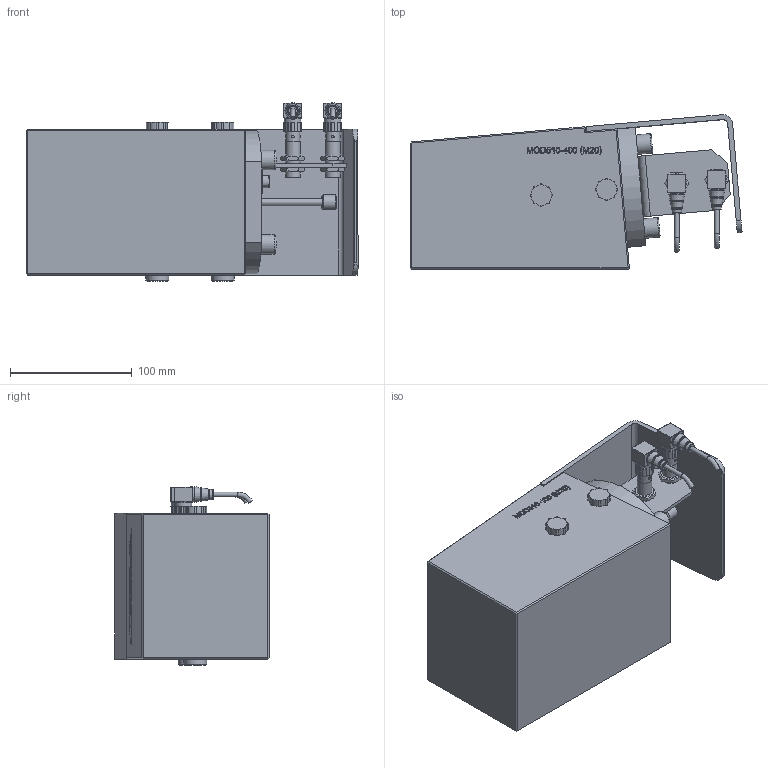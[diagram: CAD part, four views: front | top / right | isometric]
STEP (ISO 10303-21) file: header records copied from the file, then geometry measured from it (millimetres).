
FILE_DESCRIPTION((''),'2;1');
FILE_NAME('\\EASAD\users\jaccow\Desktop\MOD KM\MOD510-400 (M20).stp','2013-11-08T09:48:48',('jaccow'),(''),'Autodesk Inventor 2013','Autodesk Inventor 2013','');
FILE_SCHEMA(('AUTOMOTIVE_DESIGN { 1 0 10303 214 1 1 1 1 }'));
Length unit declared in the file: millimetre
Products named in the file (1): MOD510-400 (M20)
Bounding box: 273.24 x 127.08 x 147.06 mm (x, y, z)
Volume: 2656332.1 mm3; surface area: 183555.7 mm2
Topology: 1 solids, 1 shells, 1299 faces, 3467 edges, 2260 vertices
Faces by surface type: plane 958, cylinder 155, bspline 94, cone 41, torus 35, sphere 16
Full cylindrical faces by diameter (mm): 2.179 x8, 3 x2, 4 x2, 5.5 x1, 6 x1, 10 x6, 11 x2, 11.6 x2, 12 x7, 14 x2, 16 x4, 18.8 x2
Entity records: 40458 total; most frequent: CARTESIAN_POINT 8722, ORIENTED_EDGE 6646, DIRECTION 5849, EDGE_CURVE 3323, VECTOR 2643, LINE 2643, VERTEX_POINT 2234, AXIS2_PLACEMENT_3D 1603
